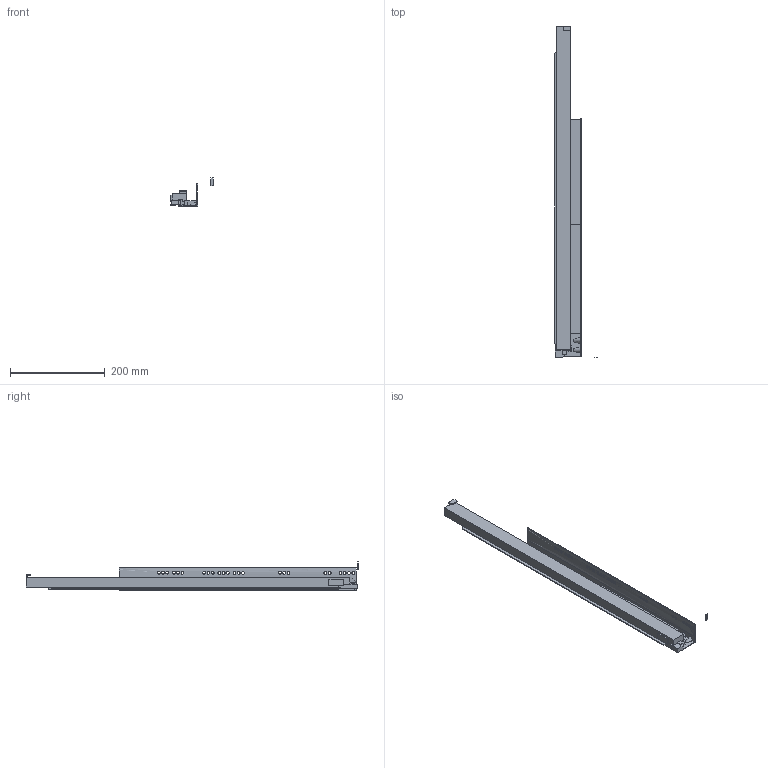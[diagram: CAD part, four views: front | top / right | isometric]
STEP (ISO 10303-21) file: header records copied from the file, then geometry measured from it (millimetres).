
FILE_DESCRIPTION (( 'STEP AP214' ), '1' );
FILE_NAME ('_IMOS_Dynapro_Softclose_D516_NL_700_RE.step', '2010-07-16T06:03:53', ( 'grass' ), ( '' ), 'SwSTEP 2.0', 'SolidWorks 2009', '' );
FILE_SCHEMA (( 'AUTOMOTIVE_DESIGN' ));
Length unit declared in the file: millimetre
Products named in the file (1): _IMOS_Dynapro_Softclose_D516_NL_700_RE
Bounding box: 90.08 x 701.43 x 59.43 mm (x, y, z)
Volume: 595376.9 mm3; surface area: 182619.1 mm2
Topology: 2 solids, 2 shells, 132 faces, 444 edges, 311 vertices
Faces by surface type: plane 77, cylinder 48, bspline 7
Entity records: 5721 total; most frequent: CARTESIAN_POINT 1602, ORIENTED_EDGE 880, DIRECTION 806, EDGE_CURVE 440, LINE 320, VECTOR 320, VERTEX_POINT 311, AXIS2_PLACEMENT_3D 243
